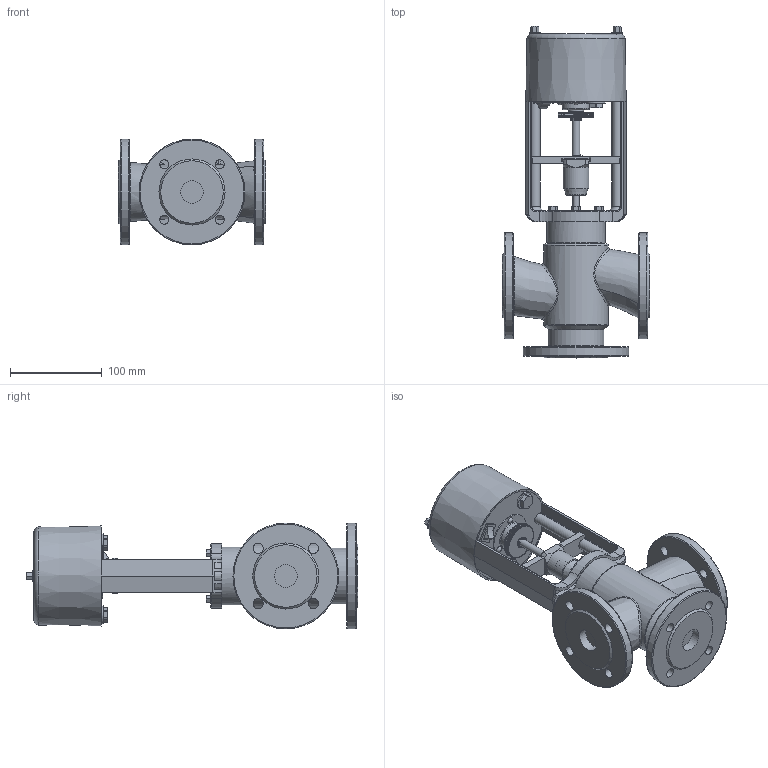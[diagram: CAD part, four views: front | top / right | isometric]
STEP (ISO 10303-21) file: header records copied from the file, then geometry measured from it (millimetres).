
FILE_DESCRIPTION(/* description */ (''),/* implementation_level */ '2;1');
FILE_NAME(/* name */ 'D:\Работа\work by\2017.01.17. клапаны для КПСР 3-хходоввые\Готовые файлы\ES 05\iges\ду 25.stp',/* time_stamp */ '2017-02-19T18:02:37+03:00',/* author */ ('Admin'),/* organization */ ('unknown'),/* preprocessor_version */ 'ST-DEVELOPER v16.1',/* originating_system */ 'Autodesk Inventor 2016',/* authorisation */ '');
FILE_SCHEMA (('AUTOMOTIVE_DESIGN { 1 0 10303 214 3 1 1 }'));
Products named in the file (1): ду 25
Bounding box: 160 x 361.05 x 115 mm (x, y, z)
Volume: 1259165.5 mm3; surface area: 272744.9 mm2
Topology: 2 solids, 2 shells, 1227 faces, 3400 edges, 2200 vertices
Faces by surface type: plane 564, cylinder 314, bspline 220, cone 66, torus 52, sphere 11
Full cylindrical faces by diameter (mm): 5.1 x4, 6 x3, 7 x4, 7.1 x1, 8 x3, 8.4 x1, 8.5 x2, 9.18 x1, 9.2 x1, 9.22 x1, 9.3 x1, 10 x4, 11 x9, 11.9 x1, 11.97 x1, 12 x6, 13.5 x1, 14 x2, 14.5 x1, 16 x3, 16.8 x1, 16.9 x1, 17.1 x1, 18 x2, 19.3 x1, 20 x3, 22 x1, 25 x3, 25.7 x4, 26 x1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
Entity records: 45263 total; most frequent: CARTESIAN_POINT 15977, ORIENTED_EDGE 6394, DIRECTION 5496, EDGE_CURVE 3194, VERTEX_POINT 2150, AXIS2_PLACEMENT_3D 1862, LINE 1772, VECTOR 1772
